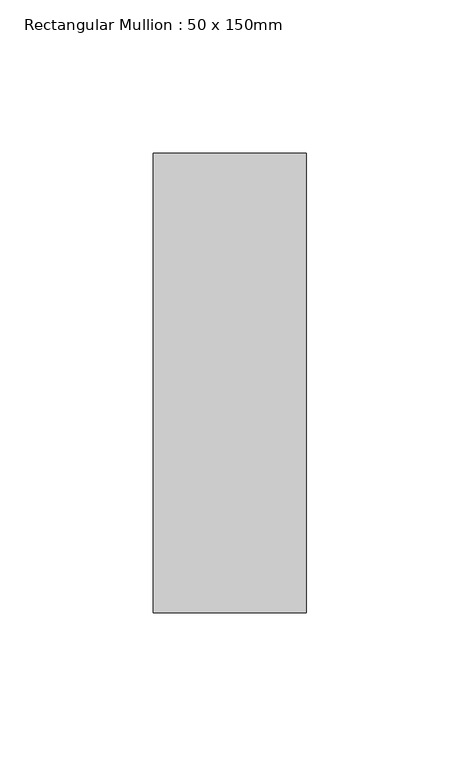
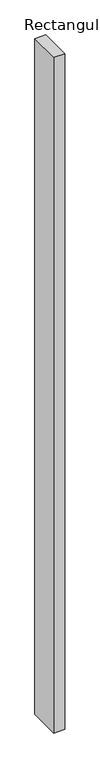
"""IFC4 building model written with IfcOpenShell, lengths in millimetres: member geometry, Rectangular Mullion : 50 x 150mm."""

from ifc_helpers import new_model, si_unit, frame, origin, place, context, project, spatial, polyline, outline, extrude, source, transform, mapped, element, save


def rectangular_mullion_50_x_150mm_73a7075e(model_context):
    return source(origin(), model_context, "Body", "SweptSolid", [
        extrude(outline(polyline([(0.0, 75.0), (0.0, -75.0), (-50.0, -75.0), (-50.0, 75.0), (0.0, 75.0)])), frame((0.0, 0.0, -3287.5), z_axis=(0.0, 0.0, 1.0), x_axis=(1.0, 0.0, 0.0)), (0.0, 0.0, 1.0), 3287.5),
    ])


if __name__ == "__main__":
    model = new_model("IFC4")
    model_context = context("Model", 3, world=origin())
    ifc_project = project(units=[si_unit("LENGTHUNIT", "METRE", prefix="MILLI")], contexts=[model_context])
    site = spatial("IfcSite", under=ifc_project)
    building = spatial("IfcBuilding", under=site)
    placement = place(None, origin())
    rectangular_mullion_50_x_150mm_shape = rectangular_mullion_50_x_150mm_73a7075e(model_context)
    element("IfcMember", 1, ObjectType="Rectangular Mullion : 50 x 150mm", at=placement, inside=building, context=model_context, shape_type="MappedRepresentation", body=[
        mapped(rectangular_mullion_50_x_150mm_shape, transform((0.0, 0.0, 0.0), x_axis=(1.0, 0.0, 0.0), y_axis=(0.0, 1.0, 0.0), z_axis=(0.0, 0.0, 1.0))),
    ])
    save(model, "model.ifc")
